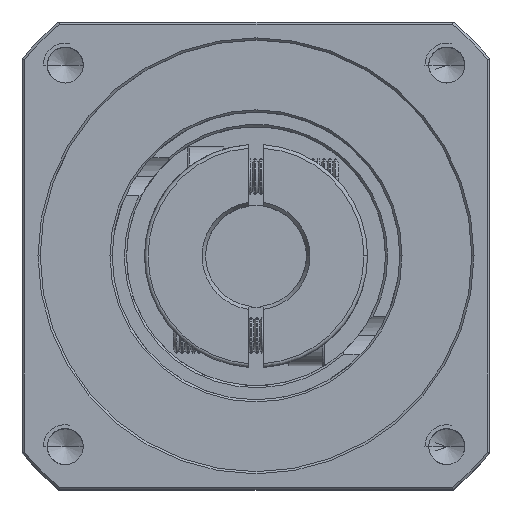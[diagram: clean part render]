
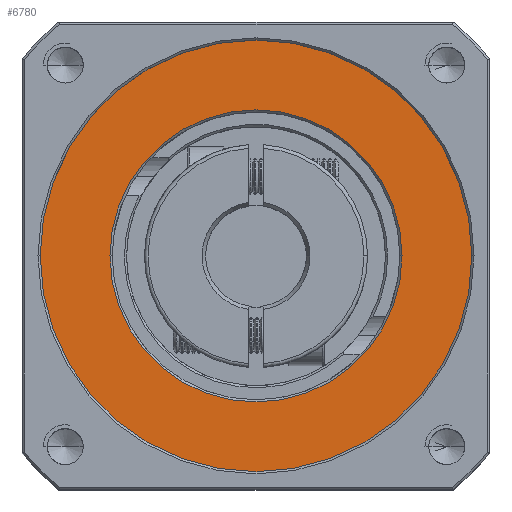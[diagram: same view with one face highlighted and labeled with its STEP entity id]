
A CAD part, top view. The second image highlights one B-rep face of the part: STEP entity #6780.
In plain terms, the highlighted planar face has unit normal (0, 0, 1).
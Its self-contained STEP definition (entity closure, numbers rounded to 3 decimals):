
#2528 = EDGE_LOOP ( 'NONE', ( #13200, #77044 ) ) ;
#6780 = ADVANCED_FACE ( 'NONE', ( #82147, #77181 ), #51588, .T. ) ;
#13200 = ORIENTED_EDGE ( 'NONE', *, *, #45157, .T. ) ;
#14317 = DIRECTION ( 'NONE',  ( 0., 0., 1. ) ) ;
#16072 = VERTEX_POINT ( 'NONE', #48195 ) ;
#17873 = CARTESIAN_POINT ( 'NONE',  ( -35.47, 28.173, 12.447 ) ) ;
#19612 = AXIS2_PLACEMENT_3D ( 'NONE', #61644, #14317, #69510 ) ;
#26765 = ORIENTED_EDGE ( 'NONE', *, *, #35969, .T. ) ;
#30278 = VERTEX_POINT ( 'NONE', #17873 ) ;
#35969 = EDGE_CURVE ( 'NONE', #64793, #16072, #97968, .T. ) ;
#36726 = CARTESIAN_POINT ( 'NONE',  ( -65.47, 28.173, 12.447 ) ) ;
#39064 = CIRCLE ( 'NONE', #52584, 20.3 ) ;
#39559 = EDGE_LOOP ( 'NONE', ( #26765, #78163 ) ) ;
#41195 = DIRECTION ( 'NONE',  ( 0., 0., 1. ) ) ;
#42784 = CARTESIAN_POINT ( 'NONE',  ( -45.17, 28.173, 12.447 ) ) ;
#44649 = DIRECTION ( 'NONE',  ( 1., 0., 0. ) ) ;
#45157 = EDGE_CURVE ( 'NONE', #30278, #52767, #90919, .T. ) ;
#45256 = CARTESIAN_POINT ( 'NONE',  ( -65.47, 28.173, 12.447 ) ) ;
#46627 = DIRECTION ( 'NONE',  ( 0., 0., -1. ) ) ;
#48195 = CARTESIAN_POINT ( 'NONE',  ( -85.77, 28.173, 12.447 ) ) ;
#51588 = PLANE ( 'NONE',  #70724 ) ;
#52584 = AXIS2_PLACEMENT_3D ( 'NONE', #45256, #100071, #53215 ) ;
#52767 = VERTEX_POINT ( 'NONE', #57808 ) ;
#53215 = DIRECTION ( 'NONE',  ( 1., 0., 0. ) ) ;
#57808 = CARTESIAN_POINT ( 'NONE',  ( -95.47, 28.173, 12.447 ) ) ;
#61644 = CARTESIAN_POINT ( 'NONE',  ( -65.47, 28.173, 12.447 ) ) ;
#64793 = VERTEX_POINT ( 'NONE', #42784 ) ;
#67086 = AXIS2_PLACEMENT_3D ( 'NONE', #93640, #46627, #101381 ) ;
#69510 = DIRECTION ( 'NONE',  ( 1., 0., 0. ) ) ;
#70724 = AXIS2_PLACEMENT_3D ( 'NONE', #36726, #91702, #44649 ) ;
#76285 = AXIS2_PLACEMENT_3D ( 'NONE', #88263, #41195, #96120 ) ;
#76778 = EDGE_CURVE ( 'NONE', #16072, #64793, #39064, .T. ) ;
#77044 = ORIENTED_EDGE ( 'NONE', *, *, #94488, .T. ) ;
#77181 = FACE_OUTER_BOUND ( 'NONE', #2528, .T. ) ;
#78163 = ORIENTED_EDGE ( 'NONE', *, *, #76778, .T. ) ;
#82147 = FACE_BOUND ( 'NONE', #39559, .T. ) ;
#85877 = CIRCLE ( 'NONE', #19612, 30. ) ;
#88263 = CARTESIAN_POINT ( 'NONE',  ( -65.47, 28.173, 12.447 ) ) ;
#90919 = CIRCLE ( 'NONE', #76285, 30. ) ;
#91702 = DIRECTION ( 'NONE',  ( 0., 0., 1. ) ) ;
#93640 = CARTESIAN_POINT ( 'NONE',  ( -65.47, 28.173, 12.447 ) ) ;
#94488 = EDGE_CURVE ( 'NONE', #52767, #30278, #85877, .T. ) ;
#96120 = DIRECTION ( 'NONE',  ( 1., 0., 0. ) ) ;
#97968 = CIRCLE ( 'NONE', #67086, 20.3 ) ;
#100071 = DIRECTION ( 'NONE',  ( 0., 0., -1. ) ) ;
#101381 = DIRECTION ( 'NONE',  ( 1., 0., 0. ) ) ;
